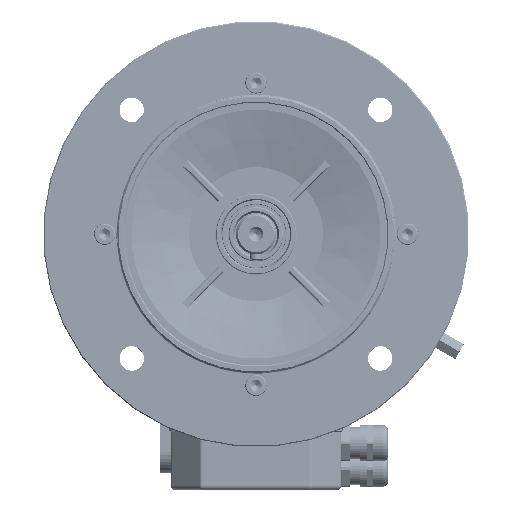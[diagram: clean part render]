
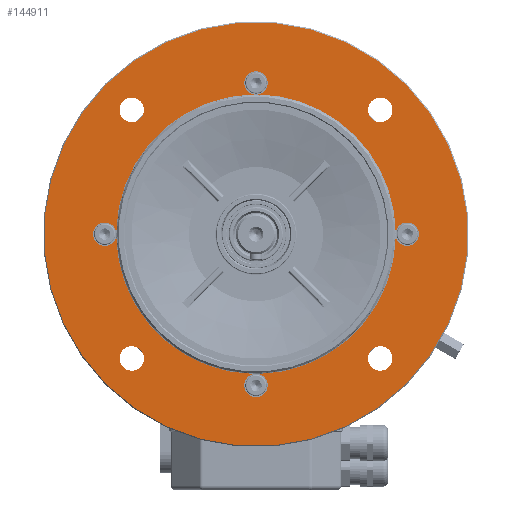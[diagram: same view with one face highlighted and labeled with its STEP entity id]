
A CAD part, left-side view. The second image highlights one B-rep face of the part: STEP entity #144911.
In plain terms, the highlighted planar face has unit normal (-1, 0, 0).
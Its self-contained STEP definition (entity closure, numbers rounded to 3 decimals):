
#1132=FACE_BOUND('',#42236,.T.);
#1133=FACE_BOUND('',#42237,.T.);
#1134=FACE_BOUND('',#42238,.T.);
#1135=FACE_BOUND('',#42239,.T.);
#1136=FACE_BOUND('',#42240,.T.);
#3946=PLANE('',#160147);
#33423=FACE_OUTER_BOUND('',#42235,.T.);
#42235=EDGE_LOOP('',(#123564));
#42236=EDGE_LOOP('',(#123565,#123566,#123567,#123568,#123569,#123570,#123571,
#123572,#123573,#123574,#123575,#123576,#123577));
#42237=EDGE_LOOP('',(#123578));
#42238=EDGE_LOOP('',(#123579));
#42239=EDGE_LOOP('',(#123580));
#42240=EDGE_LOOP('',(#123581));
#51979=CIRCLE('',#160132,65.6);
#51983=CIRCLE('',#160136,65.6);
#51984=CIRCLE('',#160137,65.6);
#51985=CIRCLE('',#160138,65.6);
#51986=CIRCLE('',#160139,65.6);
#51989=CIRCLE('',#160144,99.5);
#51992=CIRCLE('',#160148,5.5);
#51993=CIRCLE('',#160149,5.5);
#51994=CIRCLE('',#160150,5.5);
#51995=CIRCLE('',#160151,5.5);
#51996=CIRCLE('',#160152,5.5);
#51997=CIRCLE('',#160153,5.5);
#51998=CIRCLE('',#160154,5.5);
#51999=CIRCLE('',#160155,5.5);
#52000=CIRCLE('',#160156,5.75);
#52001=CIRCLE('',#160157,5.75);
#52002=CIRCLE('',#160158,5.75);
#52003=CIRCLE('',#160159,5.75);
#64097=VERTEX_POINT('',#341363);
#64098=VERTEX_POINT('',#341364);
#64099=VERTEX_POINT('',#341373);
#64102=VERTEX_POINT('',#341380);
#64103=VERTEX_POINT('',#341382);
#64104=VERTEX_POINT('',#341391);
#64105=VERTEX_POINT('',#341393);
#64106=VERTEX_POINT('',#341402);
#64107=VERTEX_POINT('',#341404);
#64110=VERTEX_POINT('',#341421);
#64113=VERTEX_POINT('',#341429);
#64114=VERTEX_POINT('',#341432);
#64115=VERTEX_POINT('',#341435);
#64116=VERTEX_POINT('',#341438);
#64117=VERTEX_POINT('',#341441);
#64118=VERTEX_POINT('',#341443);
#64119=VERTEX_POINT('',#341445);
#64120=VERTEX_POINT('',#341447);
#84181=EDGE_CURVE('',#64097,#64099,#51979,.T.);
#84185=EDGE_CURVE('',#64099,#64102,#51983,.T.);
#84187=EDGE_CURVE('',#64103,#64104,#51984,.T.);
#84189=EDGE_CURVE('',#64105,#64106,#51985,.T.);
#84191=EDGE_CURVE('',#64107,#64098,#51986,.T.);
#84195=EDGE_CURVE('',#64110,#64110,#51989,.T.);
#84199=EDGE_CURVE('',#64113,#64107,#51992,.T.);
#84200=EDGE_CURVE('',#64106,#64113,#51993,.T.);
#84201=EDGE_CURVE('',#64114,#64105,#51994,.T.);
#84202=EDGE_CURVE('',#64104,#64114,#51995,.T.);
#84203=EDGE_CURVE('',#64115,#64103,#51996,.T.);
#84204=EDGE_CURVE('',#64102,#64115,#51997,.T.);
#84205=EDGE_CURVE('',#64116,#64097,#51998,.T.);
#84206=EDGE_CURVE('',#64098,#64116,#51999,.T.);
#84207=EDGE_CURVE('',#64117,#64117,#52000,.T.);
#84208=EDGE_CURVE('',#64118,#64118,#52001,.T.);
#84209=EDGE_CURVE('',#64119,#64119,#52002,.T.);
#84210=EDGE_CURVE('',#64120,#64120,#52003,.T.);
#123564=ORIENTED_EDGE('',*,*,#84195,.F.);
#123565=ORIENTED_EDGE('',*,*,#84191,.F.);
#123566=ORIENTED_EDGE('',*,*,#84199,.F.);
#123567=ORIENTED_EDGE('',*,*,#84200,.F.);
#123568=ORIENTED_EDGE('',*,*,#84189,.F.);
#123569=ORIENTED_EDGE('',*,*,#84201,.F.);
#123570=ORIENTED_EDGE('',*,*,#84202,.F.);
#123571=ORIENTED_EDGE('',*,*,#84187,.F.);
#123572=ORIENTED_EDGE('',*,*,#84203,.F.);
#123573=ORIENTED_EDGE('',*,*,#84204,.F.);
#123574=ORIENTED_EDGE('',*,*,#84185,.F.);
#123575=ORIENTED_EDGE('',*,*,#84181,.F.);
#123576=ORIENTED_EDGE('',*,*,#84205,.F.);
#123577=ORIENTED_EDGE('',*,*,#84206,.F.);
#123578=ORIENTED_EDGE('',*,*,#84207,.F.);
#123579=ORIENTED_EDGE('',*,*,#84208,.F.);
#123580=ORIENTED_EDGE('',*,*,#84209,.F.);
#123581=ORIENTED_EDGE('',*,*,#84210,.F.);
#144911=ADVANCED_FACE('',(#33423,#1132,#1133,#1134,#1135,#1136),#3946,.F.);
#160132=AXIS2_PLACEMENT_3D('',#341374,#197758,#197759);
#160136=AXIS2_PLACEMENT_3D('',#341381,#197766,#197767);
#160137=AXIS2_PLACEMENT_3D('',#341392,#197768,#197769);
#160138=AXIS2_PLACEMENT_3D('',#341403,#197770,#197771);
#160139=AXIS2_PLACEMENT_3D('',#341413,#197772,#197773);
#160144=AXIS2_PLACEMENT_3D('',#341422,#197783,#197784);
#160147=AXIS2_PLACEMENT_3D('',#341428,#197790,#197791);
#160148=AXIS2_PLACEMENT_3D('',#341430,#197792,#197793);
#160149=AXIS2_PLACEMENT_3D('',#341431,#197794,#197795);
#160150=AXIS2_PLACEMENT_3D('',#341433,#197796,#197797);
#160151=AXIS2_PLACEMENT_3D('',#341434,#197798,#197799);
#160152=AXIS2_PLACEMENT_3D('',#341436,#197800,#197801);
#160153=AXIS2_PLACEMENT_3D('',#341437,#197802,#197803);
#160154=AXIS2_PLACEMENT_3D('',#341439,#197804,#197805);
#160155=AXIS2_PLACEMENT_3D('',#341440,#197806,#197807);
#160156=AXIS2_PLACEMENT_3D('',#341442,#197808,#197809);
#160157=AXIS2_PLACEMENT_3D('',#341444,#197810,#197811);
#160158=AXIS2_PLACEMENT_3D('',#341446,#197812,#197813);
#160159=AXIS2_PLACEMENT_3D('',#341448,#197814,#197815);
#197758=DIRECTION('center_axis',(-1.,0.,0.));
#197759=DIRECTION('ref_axis',(0.,0.707,-0.707));
#197766=DIRECTION('center_axis',(-1.,0.,0.));
#197767=DIRECTION('ref_axis',(0.,0.707,-0.707));
#197768=DIRECTION('center_axis',(-1.,0.,0.));
#197769=DIRECTION('ref_axis',(0.,0.707,-0.707));
#197770=DIRECTION('center_axis',(-1.,0.,0.));
#197771=DIRECTION('ref_axis',(0.,0.707,-0.707));
#197772=DIRECTION('center_axis',(-1.,0.,0.));
#197773=DIRECTION('ref_axis',(0.,0.707,-0.707));
#197783=DIRECTION('center_axis',(1.,0.,0.));
#197784=DIRECTION('ref_axis',(0.,0.707,-0.707));
#197790=DIRECTION('center_axis',(1.,0.,0.));
#197791=DIRECTION('ref_axis',(0.,-0.707,
0.707));
#197792=DIRECTION('center_axis',(-1.,0.,0.));
#197793=DIRECTION('ref_axis',(0.,0.707,-0.707));
#197794=DIRECTION('center_axis',(-1.,0.,0.));
#197795=DIRECTION('ref_axis',(0.,0.707,-0.707));
#197796=DIRECTION('center_axis',(-1.,0.,0.));
#197797=DIRECTION('ref_axis',(0.,0.707,0.707));
#197798=DIRECTION('center_axis',(-1.,0.,0.));
#197799=DIRECTION('ref_axis',(0.,0.707,0.707));
#197800=DIRECTION('center_axis',(-1.,0.,0.));
#197801=DIRECTION('ref_axis',(0.,-0.707,
0.707));
#197802=DIRECTION('center_axis',(-1.,0.,0.));
#197803=DIRECTION('ref_axis',(0.,-0.707,
0.707));
#197804=DIRECTION('center_axis',(-1.,0.,0.));
#197805=DIRECTION('ref_axis',(0.,-0.707,
-0.707));
#197806=DIRECTION('center_axis',(-1.,0.,0.));
#197807=DIRECTION('ref_axis',(0.,-0.707,
-0.707));
#197808=DIRECTION('center_axis',(-1.,0.,0.));
#197809=DIRECTION('ref_axis',(0.,-0.707,
-0.707));
#197810=DIRECTION('center_axis',(-1.,0.,0.));
#197811=DIRECTION('ref_axis',(0.,-0.707,
0.707));
#197812=DIRECTION('center_axis',(-1.,0.,0.));
#197813=DIRECTION('ref_axis',(0.,0.707,-0.707));
#197814=DIRECTION('center_axis',(-1.,0.,0.));
#197815=DIRECTION('ref_axis',(0.,0.707,0.707));
#341363=CARTESIAN_POINT('',(-165.25,-65.592,150.29));
#341364=CARTESIAN_POINT('',(-165.25,-65.592,148.283));
#341373=CARTESIAN_POINT('',(-165.25,-46.386,195.673));
#341374=CARTESIAN_POINT('Origin',(-165.25,0.,
149.286));
#341380=CARTESIAN_POINT('',(-165.25,-1.003,214.879));
#341381=CARTESIAN_POINT('Origin',(-165.25,0.,
149.286));
#341382=CARTESIAN_POINT('',(-165.25,1.004,214.879));
#341391=CARTESIAN_POINT('',(-165.25,65.592,150.29));
#341392=CARTESIAN_POINT('Origin',(-165.25,0.,
149.286));
#341393=CARTESIAN_POINT('',(-165.25,65.592,148.283));
#341402=CARTESIAN_POINT('',(-165.25,1.003,83.694));
#341403=CARTESIAN_POINT('Origin',(-165.25,0.,
149.286));
#341404=CARTESIAN_POINT('',(-165.25,-1.004,83.694));
#341413=CARTESIAN_POINT('Origin',(-165.25,0.,
149.286));
#341421=CARTESIAN_POINT('',(-165.25,-70.357,219.644));
#341422=CARTESIAN_POINT('Origin',(-165.25,0.,
149.286));
#341428=CARTESIAN_POINT('Origin',(-165.25,-60.827,210.114));
#341429=CARTESIAN_POINT('',(-165.25,-3.889,82.175));
#341430=CARTESIAN_POINT('Origin',(-165.25,0.,
78.286));
#341431=CARTESIAN_POINT('Origin',(-165.25,0.,
78.286));
#341432=CARTESIAN_POINT('',(-165.25,67.111,145.397));
#341433=CARTESIAN_POINT('Origin',(-165.25,71.,149.286));
#341434=CARTESIAN_POINT('Origin',(-165.25,71.,149.286));
#341435=CARTESIAN_POINT('',(-165.25,3.889,216.397));
#341436=CARTESIAN_POINT('Origin',(-165.25,0.,
220.286));
#341437=CARTESIAN_POINT('Origin',(-165.25,0.,
220.286));
#341438=CARTESIAN_POINT('',(-165.25,-67.111,153.175));
#341439=CARTESIAN_POINT('Origin',(-165.25,-71.,149.286));
#341440=CARTESIAN_POINT('Origin',(-165.25,-71.,149.286));
#341441=CARTESIAN_POINT('',(-165.25,62.402,95.016));
#341442=CARTESIAN_POINT('Origin',(-165.25,58.336,90.95));
#341443=CARTESIAN_POINT('',(-165.25,-54.271,86.884));
#341444=CARTESIAN_POINT('Origin',(-165.25,-58.336,90.95));
#341445=CARTESIAN_POINT('',(-165.25,54.271,211.688));
#341446=CARTESIAN_POINT('Origin',(-165.25,58.336,207.623));
#341447=CARTESIAN_POINT('',(-165.25,-62.402,203.557));
#341448=CARTESIAN_POINT('Origin',(-165.25,-58.336,207.623));
